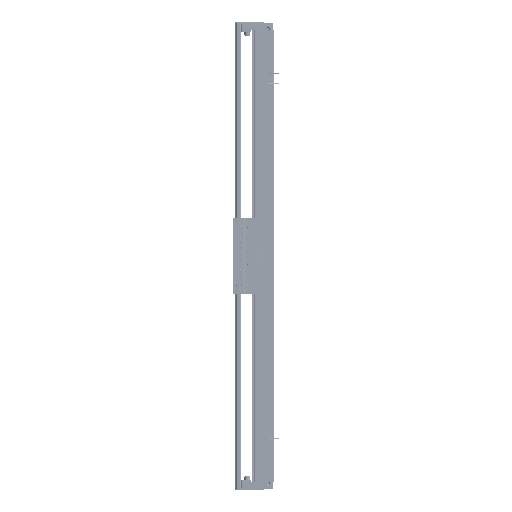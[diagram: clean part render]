
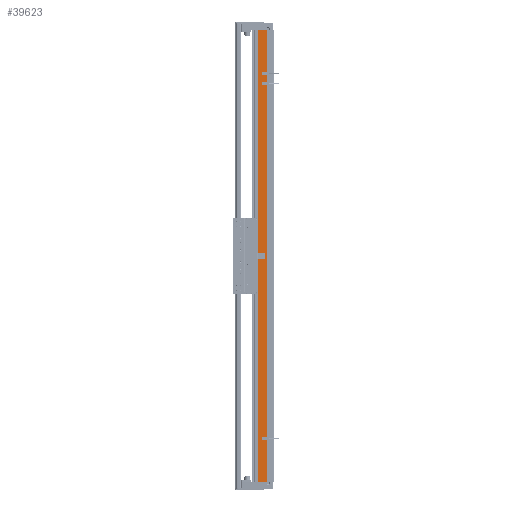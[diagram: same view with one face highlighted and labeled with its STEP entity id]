
A CAD part, left-side view. The second image highlights one B-rep face of the part: STEP entity #39623.
In plain terms, the highlighted planar face has unit normal (-1, 0, 0).
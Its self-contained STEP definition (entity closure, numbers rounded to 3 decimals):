
#3754 = CARTESIAN_POINT ( 'NONE',  ( -97.5, 36.95, 570. ) ) ;
#8312 = VECTOR ( 'NONE', #89829, 1000. ) ;
#8663 = DIRECTION ( 'NONE',  ( 0., 0., -1. ) ) ;
#10932 = CARTESIAN_POINT ( 'NONE',  ( -97.5, 14.45, -570. ) ) ;
#16985 = CARTESIAN_POINT ( 'NONE',  ( -97.5, 14.45, 570. ) ) ;
#20021 = AXIS2_PLACEMENT_3D ( 'NONE', #3754, #141595, #115226 ) ;
#20684 = VERTEX_POINT ( 'NONE', #16985 ) ;
#25397 = EDGE_CURVE ( 'NONE', #20684, #55200, #58913, .T. ) ;
#25667 = LINE ( 'NONE', #94302, #43613 ) ;
#26390 = CARTESIAN_POINT ( 'NONE',  ( -97.5, 36.95, -570. ) ) ;
#27848 = DIRECTION ( 'NONE',  ( 0., -1., 0. ) ) ;
#35196 = EDGE_CURVE ( 'NONE', #104206, #92870, #78023, .T. ) ;
#38342 = EDGE_CURVE ( 'NONE', #92870, #55200, #25667, .T. ) ;
#39623 = ADVANCED_FACE ( 'NONE', ( #57676 ), #68718, .F. ) ;
#43613 = VECTOR ( 'NONE', #27848, 1000. ) ;
#44650 = VECTOR ( 'NONE', #8663, 1000. ) ;
#54554 = LINE ( 'NONE', #143916, #118602 ) ;
#55200 = VERTEX_POINT ( 'NONE', #10932 ) ;
#57676 = FACE_OUTER_BOUND ( 'NONE', #75814, .T. ) ;
#58913 = LINE ( 'NONE', #107602, #44650 ) ;
#66978 = CARTESIAN_POINT ( 'NONE',  ( -97.5, 36.95, 570. ) ) ;
#68718 = PLANE ( 'NONE',  #20021 ) ;
#75814 = EDGE_LOOP ( 'NONE', ( #136169, #129023, #130971, #99400 ) ) ;
#78023 = LINE ( 'NONE', #66978, #8312 ) ;
#89829 = DIRECTION ( 'NONE',  ( 0., 0., -1. ) ) ;
#92870 = VERTEX_POINT ( 'NONE', #26390 ) ;
#94302 = CARTESIAN_POINT ( 'NONE',  ( -97.5, 36.95, -570. ) ) ;
#99400 = ORIENTED_EDGE ( 'NONE', *, *, #35196, .T. ) ;
#104206 = VERTEX_POINT ( 'NONE', #117994 ) ;
#107602 = CARTESIAN_POINT ( 'NONE',  ( -97.5, 14.45, 570. ) ) ;
#110657 = DIRECTION ( 'NONE',  ( 0., -1., 0. ) ) ;
#115226 = DIRECTION ( 'NONE',  ( 0., 1., 0. ) ) ;
#117994 = CARTESIAN_POINT ( 'NONE',  ( -97.5, 36.95, 570. ) ) ;
#118602 = VECTOR ( 'NONE', #110657, 1000. ) ;
#129023 = ORIENTED_EDGE ( 'NONE', *, *, #25397, .F. ) ;
#129359 = EDGE_CURVE ( 'NONE', #104206, #20684, #54554, .T. ) ;
#130971 = ORIENTED_EDGE ( 'NONE', *, *, #129359, .F. ) ;
#136169 = ORIENTED_EDGE ( 'NONE', *, *, #38342, .T. ) ;
#141595 = DIRECTION ( 'NONE',  ( 1., 0., 0. ) ) ;
#143916 = CARTESIAN_POINT ( 'NONE',  ( -97.5, 36.95, 570. ) ) ;
